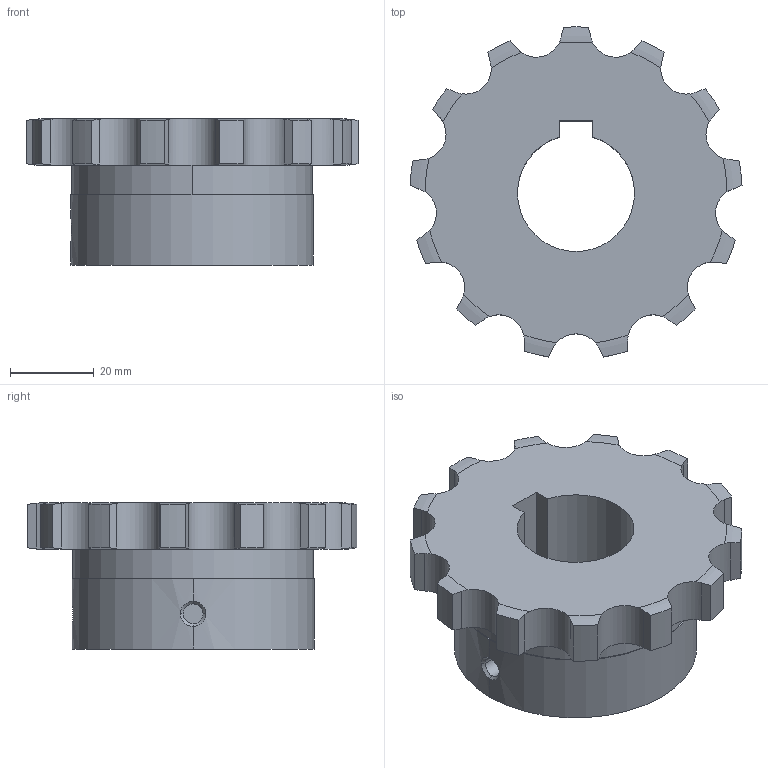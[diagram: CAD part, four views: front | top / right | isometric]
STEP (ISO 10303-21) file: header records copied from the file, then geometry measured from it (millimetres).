
FILE_DESCRIPTION((''),'2;1');
FILE_NAME('510-401-2813_PRT','2021-02-13T',('Brieden'),('Brieden'),'PRO/ENGINEER BY PARAMETRIC TECHNOLOGY CORPORATION, 2010160','PRO/ENGINEER BY PARAMETRIC TECHNOLOGY CORPORATION, 2010160','');
FILE_SCHEMA(('AUTOMOTIVE_DESIGN { 1 0 10303 214 1 1 1 1 }'));
Length unit declared in the file: millimetre
Products named in the file (1): 510-401-2813_PRT
Bounding box: 79.51 x 79.03 x 35 mm (x, y, z)
Volume: 86812.2 mm3; surface area: 18717.1 mm2
Topology: 1 solids, 1 shells, 101 faces, 285 edges, 188 vertices
Faces by surface type: cylinder 61, torus 26, plane 8, bspline 6
Entity records: 4936 total; most frequent: CARTESIAN_POINT 1547, ORIENTED_EDGE 570, DIRECTION 451, PRESENTATION_STYLE_ASSIGNMENT 286, STYLED_ITEM 286, CURVE_STYLE 285, EDGE_CURVE 285, VERTEX_POINT 188
